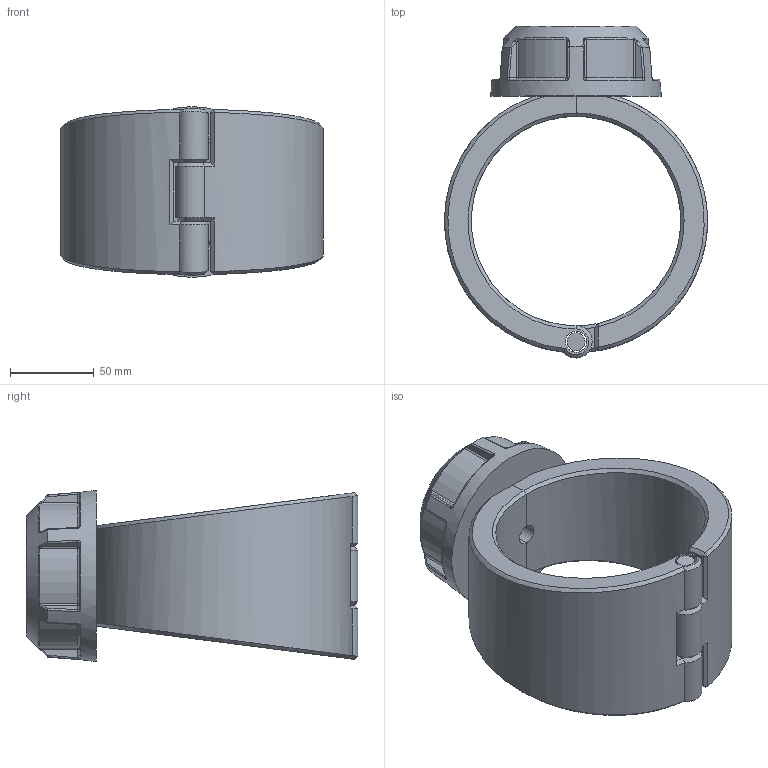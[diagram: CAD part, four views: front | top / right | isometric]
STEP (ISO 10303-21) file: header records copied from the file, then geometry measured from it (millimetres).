
FILE_DESCRIPTION(/* description */ ('Plassadle Threaded 125x3/4'''''),/* implementation_level */ '2;1');
FILE_NAME(/* name */ 'C:\Users\comp2\Dropbox\99-16-3568-Processing\Mechanical Fittings\16300\stp\163000125007.stp',/* time_stamp */ '2022-02-03T11:50:38+00:00',/* author */ ('comp2'),/* organization */ (''),/* preprocessor_version */ 'ST-DEVELOPER v17.2',/* originating_system */ 'Autodesk Inventor 2019',/* authorisation */ '');
FILE_SCHEMA (('AUTOMOTIVE_DESIGN { 1 0 10303 214 3 1 1 }'));
Length unit declared in the file: millimetre
Products named in the file (1): 163000125007
Bounding box: 156.96 x 198 x 102 mm (x, y, z)
Volume: 794316.6 mm3; surface area: 123247.1 mm2
Topology: 4 solids, 4 shells, 203 faces, 486 edges, 293 vertices
Faces by surface type: bspline 58, plane 53, cylinder 47, torus 18, cone 15, sphere 12
Full cylindrical faces by diameter (mm): 10.74 x1, 12.059 x1, 12.74 x3, 20.499 x1, 24.117 x1, 36.175 x1
Entity records: 8235 total; most frequent: CARTESIAN_POINT 3888, ORIENTED_EDGE 972, DIRECTION 781, EDGE_CURVE 486, AXIS2_PLACEMENT_3D 330, VERTEX_POINT 293, EDGE_LOOP 213, FACE_OUTER_BOUND 203
